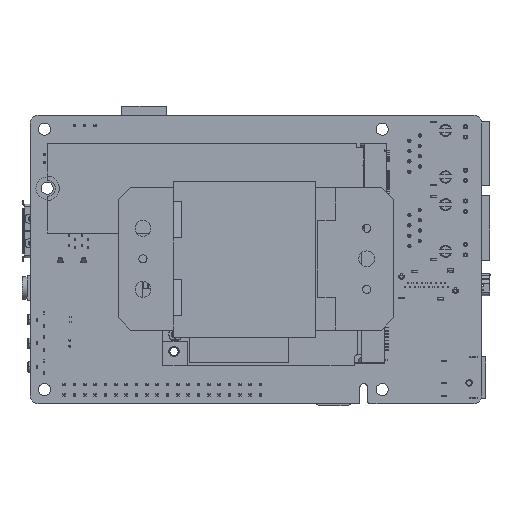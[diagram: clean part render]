
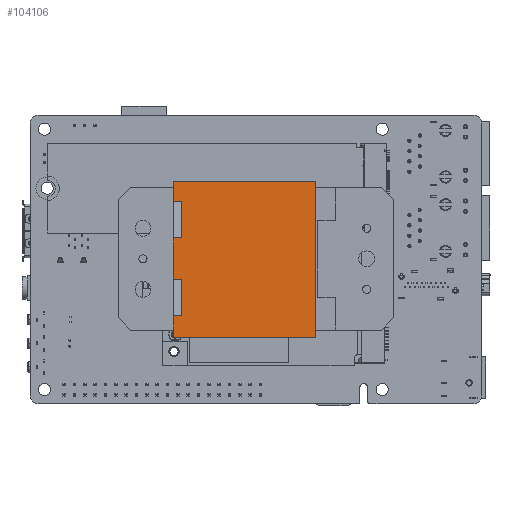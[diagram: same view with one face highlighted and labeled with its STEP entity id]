
A CAD part, front view. The second image highlights one B-rep face of the part: STEP entity #104106.
In plain terms, the highlighted planar face has unit normal (0, -1, 0) as drawn and (0, 0, 1) by its records, which use the part's own axes.
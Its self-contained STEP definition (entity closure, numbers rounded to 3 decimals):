
#3803 = CARTESIAN_POINT ( 'NONE',  ( -20.028, 17.5, 6.3 ) ) ;
#11844 = VECTOR ( 'NONE', #284868, 1000. ) ;
#16235 = LINE ( 'NONE', #94842, #69993 ) ;
#16473 = CARTESIAN_POINT ( 'NONE',  ( -20.25, 19.053, 6.3 ) ) ;
#23370 = CARTESIAN_POINT ( 'NONE',  ( -20.25, 19.053, 6.3 ) ) ;
#25114 = DIRECTION ( 'NONE',  ( 1., 0., 0. ) ) ;
#25350 = LINE ( 'NONE', #133191, #152346 ) ;
#33353 = ORIENTED_EDGE ( 'NONE', *, *, #59592, .T. ) ;
#35665 = EDGE_CURVE ( 'NONE', #176629, #136882, #306348, .T. ) ;
#38932 = VERTEX_POINT ( 'NONE', #66742 ) ;
#49498 = DIRECTION ( 'NONE',  ( -1., 0., 0. ) ) ;
#49991 = EDGE_CURVE ( 'NONE', #259574, #180918, #272132, .T. ) ;
#50291 = LINE ( 'NONE', #236551, #182083 ) ;
#51137 = LINE ( 'NONE', #220805, #275962 ) ;
#52472 = LINE ( 'NONE', #253637, #146688 ) ;
#53182 = CARTESIAN_POINT ( 'NONE',  ( -20.028, 5.15, 6.3 ) ) ;
#54494 = CARTESIAN_POINT ( 'NONE',  ( -20.25, 5.15, 6.3 ) ) ;
#55712 = CARTESIAN_POINT ( 'NONE',  ( -20.25, 17.5, 6.3 ) ) ;
#58430 = ORIENTED_EDGE ( 'NONE', *, *, #196987, .T. ) ;
#59592 = EDGE_CURVE ( 'NONE', #88109, #92948, #231757, .T. ) ;
#66742 = CARTESIAN_POINT ( 'NONE',  ( -20.028, 14., 6.3 ) ) ;
#69993 = VECTOR ( 'NONE', #346891, 1000. ) ;
#75811 = ORIENTED_EDGE ( 'NONE', *, *, #109114, .T. ) ;
#77318 = ORIENTED_EDGE ( 'NONE', *, *, #82077, .T. ) ;
#78155 = DIRECTION ( 'NONE',  ( 0., -1., 0. ) ) ;
#81393 = ORIENTED_EDGE ( 'NONE', *, *, #86644, .T. ) ;
#82077 = EDGE_CURVE ( 'NONE', #231213, #88109, #216902, .T. ) ;
#86644 = EDGE_CURVE ( 'NONE', #285318, #126427, #354534, .T. ) ;
#87827 = DIRECTION ( 'NONE',  ( 0., -1., 0. ) ) ;
#88109 = VERTEX_POINT ( 'NONE', #343320 ) ;
#89621 = LINE ( 'NONE', #3803, #206007 ) ;
#90074 = VERTEX_POINT ( 'NONE', #198695 ) ;
#92948 = VERTEX_POINT ( 'NONE', #226750 ) ;
#94842 = CARTESIAN_POINT ( 'NONE',  ( 14.75, 19.053, 6.3 ) ) ;
#104106 = ADVANCED_FACE ( 'NONE', ( #112721 ), #140094, .T. ) ;
#109114 = EDGE_CURVE ( 'NONE', #38932, #176629, #151549, .T. ) ;
#110391 = EDGE_LOOP ( 'NONE', ( #157905, #335437, #274285, #81393, #145441, #77318, #33353, #239749, #292360, #58430, #312995, #148689, #75811, #330099 ) ) ;
#110927 = CARTESIAN_POINT ( 'NONE',  ( 0., 0., 6.3 ) ) ;
#112721 = FACE_OUTER_BOUND ( 'NONE', #110391, .T. ) ;
#126427 = VERTEX_POINT ( 'NONE', #333086 ) ;
#130681 = VECTOR ( 'NONE', #134840, 1000. ) ;
#133191 = CARTESIAN_POINT ( 'NONE',  ( -20.25, 19.053, 6.3 ) ) ;
#134840 = DIRECTION ( 'NONE',  ( 1., 0., 0. ) ) ;
#136882 = VERTEX_POINT ( 'NONE', #283998 ) ;
#140094 = PLANE ( 'NONE',  #321506 ) ;
#145441 = ORIENTED_EDGE ( 'NONE', *, *, #196279, .T. ) ;
#146688 = VECTOR ( 'NONE', #171463, 1000. ) ;
#147432 = DIRECTION ( 'NONE',  ( 1., 0., 0. ) ) ;
#148689 = ORIENTED_EDGE ( 'NONE', *, *, #224834, .T. ) ;
#148958 = CARTESIAN_POINT ( 'NONE',  ( -20.028, -14., 6.3 ) ) ;
#149369 = CARTESIAN_POINT ( 'NONE',  ( -20.25, 14., 6.3 ) ) ;
#151549 = LINE ( 'NONE', #228300, #11844 ) ;
#152346 = VECTOR ( 'NONE', #193260, 1000. ) ;
#154598 = CARTESIAN_POINT ( 'NONE',  ( -20.25, 14., 6.3 ) ) ;
#157905 = ORIENTED_EDGE ( 'NONE', *, *, #225808, .T. ) ;
#166157 = CARTESIAN_POINT ( 'NONE',  ( -20.25, 19.053, 6.3 ) ) ;
#170526 = VECTOR ( 'NONE', #182528, 1000. ) ;
#171463 = DIRECTION ( 'NONE',  ( -1., 0., 0. ) ) ;
#176629 = VERTEX_POINT ( 'NONE', #53182 ) ;
#176923 = CARTESIAN_POINT ( 'NONE',  ( -20.25, -19.299, 6.3 ) ) ;
#180918 = VERTEX_POINT ( 'NONE', #149369 ) ;
#182083 = VECTOR ( 'NONE', #243773, 1000. ) ;
#182528 = DIRECTION ( 'NONE',  ( 0., -1., 0. ) ) ;
#184538 = CARTESIAN_POINT ( 'NONE',  ( -20.25, -14., 6.3 ) ) ;
#191747 = DIRECTION ( 'NONE',  ( 0., -1., 0. ) ) ;
#193260 = DIRECTION ( 'NONE',  ( 0., -1., 0. ) ) ;
#196279 = EDGE_CURVE ( 'NONE', #126427, #231213, #25350, .T. ) ;
#196987 = EDGE_CURVE ( 'NONE', #90074, #259574, #208137, .T. ) ;
#198695 = CARTESIAN_POINT ( 'NONE',  ( -20.25, 19.053, 6.3 ) ) ;
#206007 = VECTOR ( 'NONE', #87827, 1000. ) ;
#207198 = EDGE_CURVE ( 'NONE', #277778, #90074, #52472, .T. ) ;
#208137 = LINE ( 'NONE', #16473, #170526 ) ;
#216902 = LINE ( 'NONE', #23370, #289838 ) ;
#218646 = DIRECTION ( 'NONE',  ( 0., 0., 1. ) ) ;
#220805 = CARTESIAN_POINT ( 'NONE',  ( -20.25, -5.15, 6.3 ) ) ;
#224834 = EDGE_CURVE ( 'NONE', #180918, #38932, #313579, .T. ) ;
#225808 = EDGE_CURVE ( 'NONE', #136882, #356077, #50291, .T. ) ;
#225963 = DIRECTION ( 'NONE',  ( -1., 0., 0. ) ) ;
#226750 = CARTESIAN_POINT ( 'NONE',  ( 14.75, -19.299, 6.3 ) ) ;
#228300 = CARTESIAN_POINT ( 'NONE',  ( -20.028, 17.5, 6.3 ) ) ;
#231213 = VERTEX_POINT ( 'NONE', #337417 ) ;
#231757 = LINE ( 'NONE', #176923, #130681 ) ;
#236551 = CARTESIAN_POINT ( 'NONE',  ( -20.25, 19.053, 6.3 ) ) ;
#237044 = CARTESIAN_POINT ( 'NONE',  ( -20.25, -5.15, 6.3 ) ) ;
#239749 = ORIENTED_EDGE ( 'NONE', *, *, #278138, .T. ) ;
#243773 = DIRECTION ( 'NONE',  ( 0., -1., 0. ) ) ;
#246398 = DIRECTION ( 'NONE',  ( 1., 0., 0. ) ) ;
#247319 = VERTEX_POINT ( 'NONE', #304238 ) ;
#253637 = CARTESIAN_POINT ( 'NONE',  ( -20.25, 19.053, 6.3 ) ) ;
#254541 = EDGE_CURVE ( 'NONE', #247319, #285318, #89621, .T. ) ;
#259574 = VERTEX_POINT ( 'NONE', #55712 ) ;
#272132 = LINE ( 'NONE', #166157, #273493 ) ;
#273493 = VECTOR ( 'NONE', #191747, 1000. ) ;
#274285 = ORIENTED_EDGE ( 'NONE', *, *, #254541, .T. ) ;
#275962 = VECTOR ( 'NONE', #246398, 1000. ) ;
#277778 = VERTEX_POINT ( 'NONE', #292805 ) ;
#278138 = EDGE_CURVE ( 'NONE', #92948, #277778, #16235, .T. ) ;
#283998 = CARTESIAN_POINT ( 'NONE',  ( -20.25, 5.15, 6.3 ) ) ;
#284868 = DIRECTION ( 'NONE',  ( 0., -1., 0. ) ) ;
#285318 = VERTEX_POINT ( 'NONE', #148958 ) ;
#289838 = VECTOR ( 'NONE', #78155, 1000. ) ;
#290695 = VECTOR ( 'NONE', #49498, 1000. ) ;
#292360 = ORIENTED_EDGE ( 'NONE', *, *, #207198, .T. ) ;
#292805 = CARTESIAN_POINT ( 'NONE',  ( 14.75, 19.053, 6.3 ) ) ;
#304238 = CARTESIAN_POINT ( 'NONE',  ( -20.028, -5.15, 6.3 ) ) ;
#306348 = LINE ( 'NONE', #54494, #352661 ) ;
#312995 = ORIENTED_EDGE ( 'NONE', *, *, #49991, .T. ) ;
#313579 = LINE ( 'NONE', #154598, #334191 ) ;
#321506 = AXIS2_PLACEMENT_3D ( 'NONE', #110927, #218646, #25114 ) ;
#327720 = EDGE_CURVE ( 'NONE', #356077, #247319, #51137, .T. ) ;
#330099 = ORIENTED_EDGE ( 'NONE', *, *, #35665, .T. ) ;
#333086 = CARTESIAN_POINT ( 'NONE',  ( -20.25, -14., 6.3 ) ) ;
#334191 = VECTOR ( 'NONE', #147432, 1000. ) ;
#335437 = ORIENTED_EDGE ( 'NONE', *, *, #327720, .T. ) ;
#337417 = CARTESIAN_POINT ( 'NONE',  ( -20.25, -17.5, 6.3 ) ) ;
#343320 = CARTESIAN_POINT ( 'NONE',  ( -20.25, -19.299, 6.3 ) ) ;
#346891 = DIRECTION ( 'NONE',  ( 0., 1., 0. ) ) ;
#352661 = VECTOR ( 'NONE', #225963, 1000. ) ;
#354534 = LINE ( 'NONE', #184538, #290695 ) ;
#356077 = VERTEX_POINT ( 'NONE', #237044 ) ;
